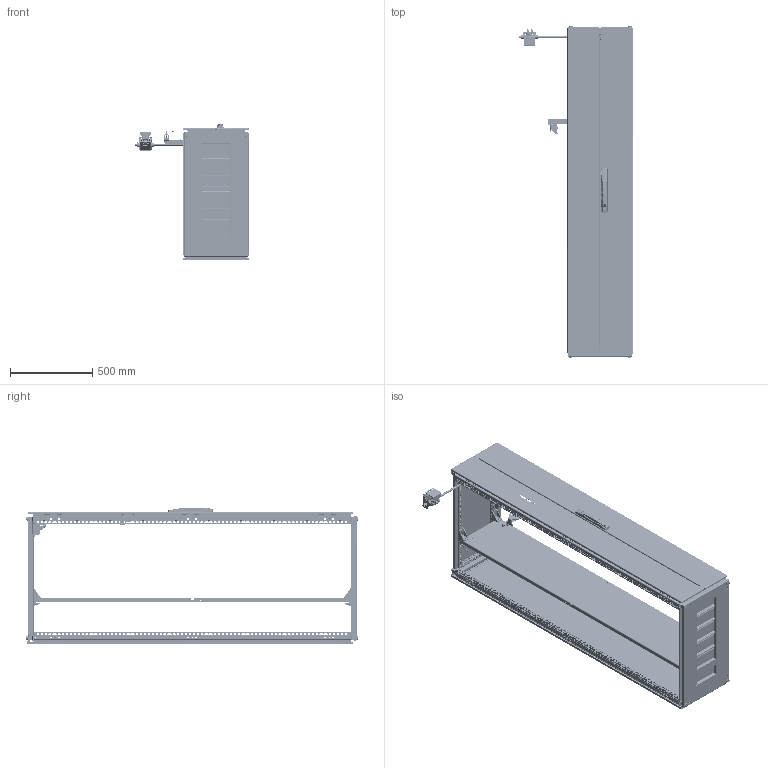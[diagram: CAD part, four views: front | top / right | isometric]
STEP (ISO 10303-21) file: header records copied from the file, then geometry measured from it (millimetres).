
FILE_DESCRIPTION (( 'STEP AP203' ), '1' );
FILE_NAME ('p2kxd2048.STEP', '2019-10-18T13:31:00', ( '' ), ( '' ), 'SwSTEP 2.0', 'SolidWorks 2016', '' );
FILE_SCHEMA (( 'CONFIG_CONTROL_DESIGN' ));
Length unit declared in the file: millimetre
Products named in the file (149): 89127963; 89134019_LATCHED; 11258013; 89127327; 89126843; 60002266; 89122254_BVM6 Assembly; 99414350_Config-Drawing; 89158960_89127102; 89129206; 89101757_87740767; 89123011; 89169110; 89133232_Cometic Threads; 21158174_BOLT, M12 x 1.75 x 16; 89126102; 89147087; 60127175_60127175; 22101006; 89155433; 89161164; 87931368_SLEEVE; p2kxd2048; 89152523; 11258012; 89158961_Formed; 89126106; 11358765; 89124407; 87960063; 89124255_89124255; 89154861; 11458037; 89158441; 46120001_Compressed; 99401230; 89001446_87787067; 60127138_60127138; 51137001; 99411283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
Assembly tree (323 placements, depth 5):
  p2kxd2048
    89124209_Installed LH Bot side - pin in  x3
      89124210_89124210
      89160169
      89124407
      89133232_Cometic Threads
      89154418_installed position SS
    89154861
      89154862_89136540
        89154863
        89124458_After Weld  x3
        60100041_60100041
          87931527_87931527
          87931368_SLEEVE
        99411407_99411407  x3
      89154864_FIP GASKET
      89001446_87787067  x2
      89134019_LATCHED  x2
        87960061
          87932260
        87960063
          87932262
          87932266
          87932264
        99405181
        99407272
        31122001_31122001
        99411283
        89135159
      89126236_Installed on LH side  x3
        89126235_97790196
        89124407
        89133232_Cometic Threads
      89167215  x2
    89124209_Installed RH side - pin in  x3
      89124210_89124210
      89160169
      89124407
      89133232_Cometic Threads
      89154418_installed position SS
    89158959_Assy
      89158960_89127102
        89158961_Formed
        60100041_60100041
          87931527_87931527
          87931368_SLEEVE
        89124458_After Weld  x3
        60127172_60127172  x3
        99414350_Config-Drawing  x2
      87792979  x2
      87792981  x2
      87924693
        11458037
        11458036
        51140001
        11358764
        11258013
        11258012
        11358763
        51231001
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Bounding box: 692.43 x 2019.6 x 833.26 mm (x, y, z)
Volume: 12540296.4 mm3; surface area: 11924508.8 mm2
Topology: 360 solids, 368 shells, 30297 faces, 81062 edges, 51198 vertices
Faces by surface type: plane 14787, cylinder 11142, bspline 1776, cone 1317, torus 1018, sphere 257
Entity records: 426186 total; most frequent: CARTESIAN_POINT 159794, ORIENTED_EDGE 51902, DIRECTION 49838, EDGE_CURVE 25955, AXIS2_PLACEMENT_3D 17201, VERTEX_POINT 16394, LINE 15436, VECTOR 15436
